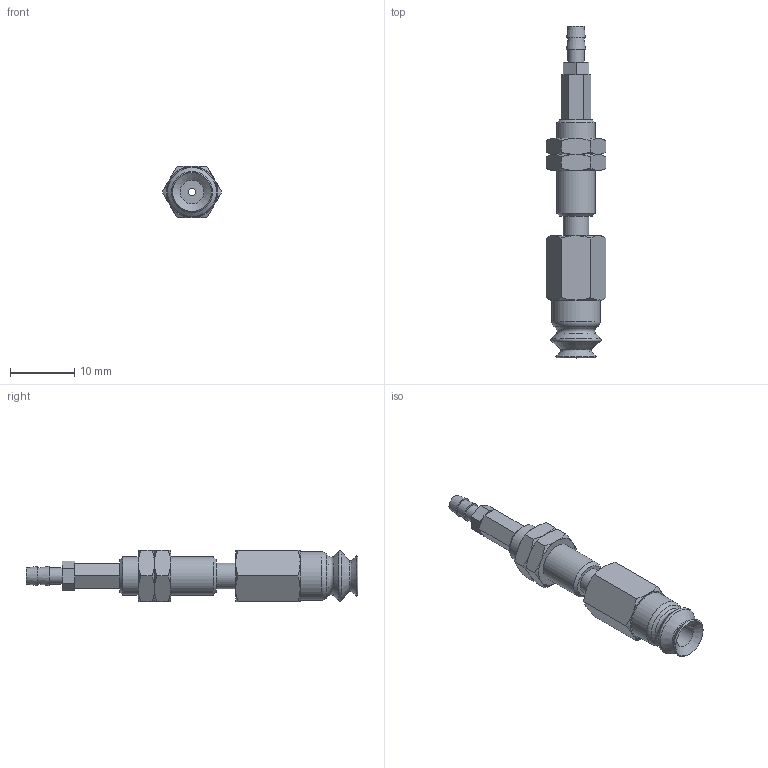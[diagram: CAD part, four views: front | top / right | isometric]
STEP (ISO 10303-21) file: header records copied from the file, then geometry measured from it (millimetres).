
FILE_DESCRIPTION(('STEP AP203'),'1');
FILE_NAME('-T.stp','2025-08-27T07:20:37',(' '),(' '),'Spatial InterOp 3D',' ',' ');
FILE_SCHEMA(('CONFIG_CONTROL_DESIGN'));
Length unit declared in the file: millimetre
Products named in the file (7): BNABPJTS-6-3-※-T; ADAPTER; NAPCTS-7-3-MBODY; NUT-NAPJ-6-3-s; NAPJTS-6-3-FBODY; BPJG-6-※; T (2)
Assembly tree (7 placements, depth 2):
  BNABPJTS-6-3-※-T
    ADAPTER
    NAPCTS-7-3-MBODY
    NUT-NAPJ-6-3-s  x2
    NAPJTS-6-3-FBODY
    BPJG-6-※
    T (2)
Bounding box: 9.24 x 51.6 x 8 mm (x, y, z)
Volume: 1546.6 mm3; surface area: 2374.3 mm2
Topology: 7 solids, 7 shells, 137 faces, 289 edges, 173 vertices
Faces by surface type: plane 57, cone 54, cylinder 17, torus 9
Full cylindrical faces by diameter (mm): 1.2 x3, 2.459 x1, 2.5 x1, 3 x1, 3.64 x1, 4 x4, 5.188 x2, 6 x3, 7.5 x1
Entity records: 3260 total; most frequent: CARTESIAN_POINT 710, DIRECTION 470, ORIENTED_EDGE 378, AXIS2_PLACEMENT_3D 208, EDGE_CURVE 189, EDGE_LOOP 173, FACE_OUTER_BOUND 139, VERTEX_POINT 134
